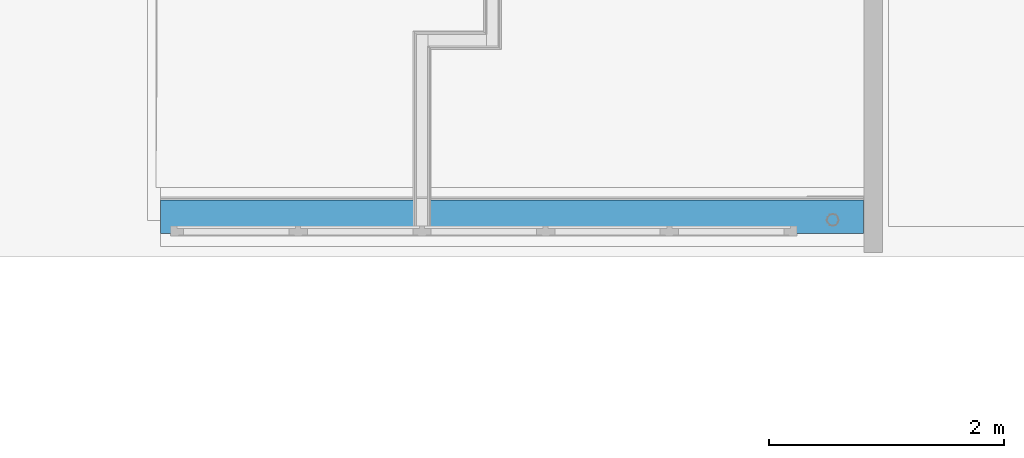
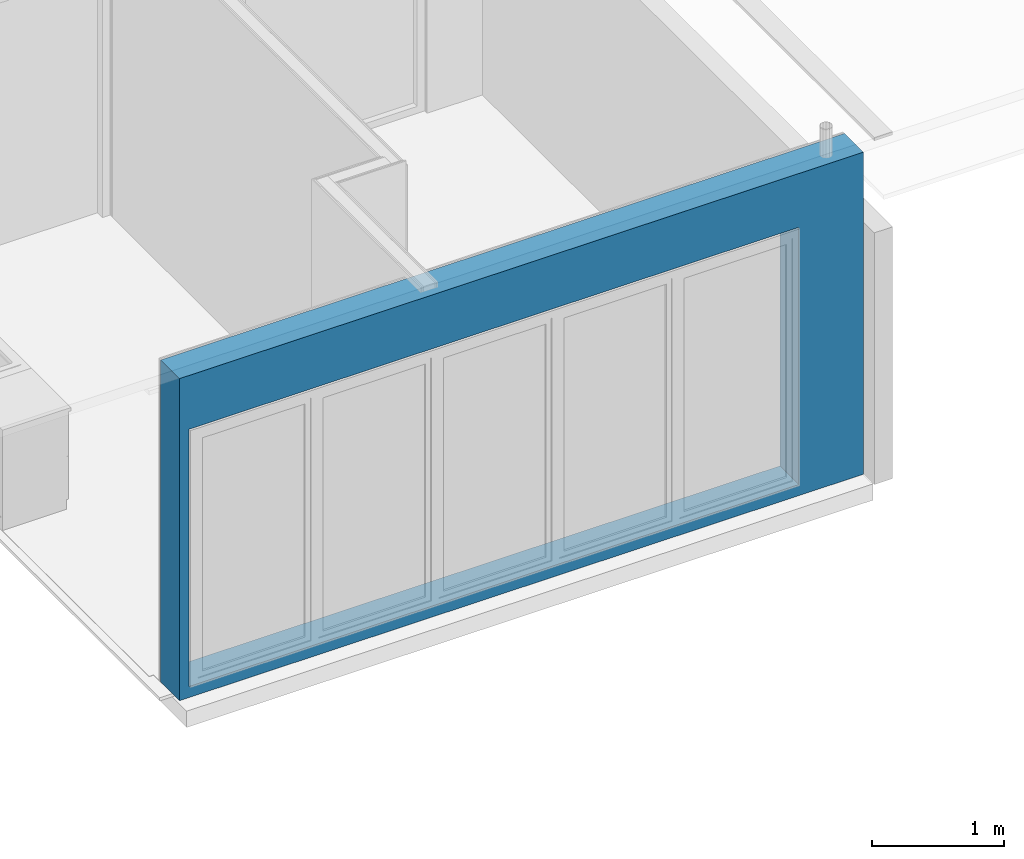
# One storey, part 17 of 25: 1 building element part, 1 opening, 1 element without a shape of its own.
"""IFC2X3 building model written with IfcOpenShell, lengths in millimetres."""

import ifcopenshell
import ifcopenshell.guid

model = None  # the IFC model being written
_history = None  # IfcOwnerHistory: only IFC2X3 demands one
_inside = {}  # id of a spatial element -> (the spatial element, [elements in it])
_under = {}  # id of a project, library or spatial element -> (it, [spatial elements below it])
_declared = {}  # id of a project -> (the project, [libraries it declares])
_typed = {}  # id of a type object -> (the type object, [elements of that type])
_made_of = {}  # id of a material, layer set ... -> (it, [elements and type objects made of it])


def new_model(schema):
    """Start an empty IFC model of exactly this schema.

    Asked for "IFC4X3", IfcOpenShell would pick the latest addendum, in which some entities
    have other attributes; the version numbers below select the first issue.
    IFC2X3 requires an IfcOwnerHistory on every rooted entity: one is made here for all.
    """
    global model, _history
    if schema == "IFC4X3":
        model = ifcopenshell.file(schema_version=(4, 3, 0, 0))
    else:
        model = ifcopenshell.file(schema=schema)
    _inside.clear()
    _under.clear()
    _declared.clear()
    _typed.clear()
    _made_of.clear()
    _history = None
    if model.schema == "IFC2X3":
        org = make("IfcOrganization", Name="unknown")
        user = make(
            "IfcPersonAndOrganization",
            ThePerson=make("IfcPerson", FamilyName="unknown"),
            TheOrganization=org,
        )
        app = make(
            "IfcApplication",
            ApplicationDeveloper=org,
            Version="unknown",
            ApplicationFullName="unknown",
            ApplicationIdentifier="unknown",
        )
        _history = make(
            "IfcOwnerHistory",
            OwningUser=user,
            OwningApplication=app,
            ChangeAction="ADDED",
            CreationDate=0,
        )
    return model


def make(cls, **values):
    """One entity of the class cls with the attributes given. An attribute that is None is left unset."""
    return model.create_entity(
        cls, **{name: value for name, value in values.items() if value is not None}
    )


def entity(cls, *values):
    """Any entity or typed value of the class cls, its attributes in the order of the schema. None: left unset."""
    e = model.create_entity(cls)
    for i, value in enumerate(values):
        if value is not None:
            e[i] = value
    return e


def rooted(cls, **values):
    """An entity with a GlobalId (a new one), such as an element, a storey or a relation."""
    return make(cls, GlobalId=ifcopenshell.guid.new(), OwnerHistory=_history, **values)


def si_unit(unit_type, name, prefix=None):
    """IfcSIUnit, for example si_unit("LENGTHUNIT", "METRE", prefix="MILLI")."""
    return make("IfcSIUnit", UnitType=unit_type, Prefix=prefix, Name=name)


def converted_unit(unit_type, name, factor, base, dimensions=None, offset=None):
    """IfcConversionBasedUnit, such as the inch: factor (a typed value) times the base unit."""
    return make(
        "IfcConversionBasedUnit"
        if offset is None
        else "IfcConversionBasedUnitWithOffset",
        ConversionOffset=offset,
        Dimensions=None
        if dimensions is None
        else entity("IfcDimensionalExponents", *dimensions),
        UnitType=unit_type,
        Name=name,
        ConversionFactor=make(
            "IfcMeasureWithUnit", ValueComponent=factor, UnitComponent=base
        ),
    )


def derived_unit(unit_type, elements):
    """IfcDerivedUnit: a product of units, each with its exponent."""
    return make(
        "IfcDerivedUnit",
        Elements=[
            make("IfcDerivedUnitElement", Unit=unit, Exponent=power)
            for unit, power in elements
        ],
        UnitType=unit_type,
    )


def money_unit(currency):
    """IfcMonetaryUnit."""
    return make("IfcMonetaryUnit", Currency=currency)


def assignment(units):
    """IfcUnitAssignment: the units of a project."""
    return None if units is None else make("IfcUnitAssignment", Units=units)


def point(xyz):
    """IfcCartesianPoint."""
    return None if xyz is None else make("IfcCartesianPoint", Coordinates=xyz)


def direction(xyz):
    """IfcDirection."""
    return None if xyz is None else make("IfcDirection", DirectionRatios=xyz)


def frame(location, z_axis=None, x_axis=None):
    """IfcAxis2Placement3D, a coordinate frame: its origin and axes. An axis left out is left unset."""
    return make(
        "IfcAxis2Placement3D",
        Location=point(location),
        Axis=direction(z_axis),
        RefDirection=direction(x_axis),
    )


def origin_with_axes():
    """The frame at (0, 0, 0) with the z axis (0, 0, 1) and the x axis (1, 0, 0) written out."""
    return frame((0.0, 0.0, 0.0), z_axis=(0.0, 0.0, 1.0), x_axis=(1.0, 0.0, 0.0))


def place(relative_to, where):
    """IfcLocalPlacement: puts the frame where relative to a parent placement (None: the world)."""
    return make(
        "IfcLocalPlacement", PlacementRelTo=relative_to, RelativePlacement=where
    )


def context(
    kind, dimensions, precision=None, world=None, true_north=None, identifier=None
):
    """IfcGeometricRepresentationContext, for example the 3D "Model" context."""
    return make(
        "IfcGeometricRepresentationContext",
        ContextIdentifier=identifier,
        ContextType=kind,
        CoordinateSpaceDimension=dimensions,
        Precision=precision,
        WorldCoordinateSystem=world,
        TrueNorth=true_north,
    )


def subcontext(parent, identifier, kind, view, scale=None):
    """IfcGeometricRepresentationSubContext, for example "Body" below "Model"."""
    return make(
        "IfcGeometricRepresentationSubContext",
        ContextIdentifier=identifier,
        ContextType=kind,
        ParentContext=parent,
        TargetScale=scale,
        TargetView=view,
    )


def project(units=None, contexts=None):
    """IfcProject with its units and contexts."""
    return rooted(
        "IfcProject",
        Name="project",
        RepresentationContexts=contexts,
        UnitsInContext=assignment(units),
    )


def spatial(cls, under=None, at=None, **own):
    """A site, building, storey or space (cls), placed at a placement, below another one or the project."""
    s = rooted(cls, ObjectPlacement=at, **own)
    if under is not None:
        _under.setdefault(under.id(), (under, []))[1].append(s)
    return s


def faces_of(points, faces, orient=None, outer=None):
    """IfcFace entities. A face is a list of loops; a loop is a list of indices into points, from 0.

    orient and outer hold one flag for each loop. By default every Orientation is true, the
    first loop of a face is its IfcFaceOuterBound and the others are IfcFaceBound.
    """
    made = []
    for i, loops in enumerate(faces):
        bounds = []
        for j, loop in enumerate(loops):
            is_outer = j == 0 if outer is None else outer[i][j]
            bounds.append(
                make(
                    "IfcFaceOuterBound" if is_outer else "IfcFaceBound",
                    Bound=make("IfcPolyLoop", Polygon=[points[k] for k in loop]),
                    Orientation=True if orient is None else orient[i][j],
                )
            )
        made.append(make("IfcFace", Bounds=bounds))
    return made


def faceted_brep(points, faces, orient=None, outer=None, voids=None):
    """IfcFacetedBrep: a solid bounded by flat faces; with voids (closed shells), ...WithVoids."""
    shared = [point(p) for p in points]
    hull = make("IfcClosedShell", CfsFaces=faces_of(shared, faces, orient, outer))
    if voids is None:
        return make("IfcFacetedBrep", Outer=hull)
    return make(
        "IfcFacetedBrepWithVoids",
        Outer=hull,
        Voids=[
            make(cls, CfsFaces=faces_of(shared, fs, o, b)) for cls, fs, o, b in voids
        ],
    )


def shape(context_of_items, identifier, shape_type, items):
    """IfcShapeRepresentation: the items that make up one representation, for example the "Body"."""
    return make(
        "IfcShapeRepresentation",
        ContextOfItems=context_of_items,
        RepresentationIdentifier=identifier,
        RepresentationType=shape_type,
        Items=items,
    )


def material(Name=None, Category=None):
    """IfcMaterial."""
    return make("IfcMaterial", Name=Name, Category=Category)


def made_of(thing, what):
    """Note that an element or type object is made of a material, layer set ...; save() writes the relation."""
    if what is not None:
        _made_of.setdefault(what.id(), (what, []))[1].append(thing)
    return thing


def type_object(cls, material=None, **own):
    """A type object (cls), such as IfcWallType, which elements share."""
    return made_of(rooted(cls, **own), material)


def element(
    cls,
    number,
    at=None,
    inside=None,
    cuts=None,
    type_object=None,
    material=None,
    context=None,
    identifier="Body",
    shape_type=None,
    held_by="IfcProductDefinitionShape",
    body=None,
    shapes=None,
    **own,
):
    """One element of the class cls, such as IfcWall. Its Tag is "e" and its number.

    at: its placement. inside: the storey or other place that contains it. cuts: it is an
    opening in that element (IfcRelVoidsElement). A single representation is given by context,
    identifier, shape_type and body (its items); several are given by shapes. held_by: the class
    of the entity that holds the representations. save() writes the other relations.
    """
    e = rooted(cls, Tag="e%d" % number, ObjectPlacement=at, **own)
    if body is not None:
        shapes = [shape(context, identifier, shape_type, body)]
    if shapes is not None:
        e.Representation = make(held_by, Representations=shapes)
    if inside is not None:
        _inside.setdefault(inside.id(), (inside, []))[1].append(e)
    if cuts is not None:
        rooted(
            "IfcRelVoidsElement", RelatingBuildingElement=cuts, RelatedOpeningElement=e
        )
    if type_object is not None:
        _typed.setdefault(type_object.id(), (type_object, []))[1].append(e)
    return made_of(e, material)


def aggregate(whole, parts):
    """IfcRelAggregates: a whole, such as a stair, and the parts it consists of."""
    return rooted("IfcRelAggregates", RelatingObject=whole, RelatedObjects=parts)


def save(model, path):
    """Write the relations noted so far, then the file.

    IfcRelAggregates (storeys below a building ...), IfcRelContainedInSpatialStructure (elements
    in a storey), IfcRelDefinesByType, IfcRelAssociatesMaterial and IfcRelDeclares: one each for
    every whole, place, type object, material and project.
    """
    for whole, parts in _under.values():
        aggregate(whole, parts)
    for where, things in _inside.values():
        rooted(
            "IfcRelContainedInSpatialStructure",
            RelatedElements=things,
            RelatingStructure=where,
        )
    for kind, things in _typed.values():
        rooted("IfcRelDefinesByType", RelatedObjects=things, RelatingType=kind)
    for what, things in _made_of.values():
        rooted("IfcRelAssociatesMaterial", RelatedObjects=things, RelatingMaterial=what)
    for by, libraries in _declared.values():
        rooted("IfcRelDeclares", RelatingContext=by, RelatedDefinitions=libraries)
    model.write(path)


model = new_model("IFC2X3")

# Units and contexts
model_context = context("Model", 3, precision=0.01, world=origin_with_axes(), true_north=direction((0.0, 1.0)))
body_context = subcontext(model_context, "Body", "Model", "MODEL_VIEW")
ifc_project = project(units=[si_unit("LENGTHUNIT", "METRE", prefix="MILLI"), si_unit("AREAUNIT", "SQUARE_METRE"), si_unit("VOLUMEUNIT", "CUBIC_METRE"), converted_unit("PLANEANGLEUNIT", "DEGREE", entity("IfcPlaneAngleMeasure", 0.0174532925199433), si_unit("PLANEANGLEUNIT", "RADIAN"), dimensions=[0, 0, 0, 0, 0, 0, 0]), money_unit("EUR"), converted_unit("TIMEUNIT", "Year", entity("IfcTimeMeasure", 31557600.0), si_unit("TIMEUNIT", "SECOND"), dimensions=[0, 0, 1, 0, 0, 0, 0]), si_unit("MASSUNIT", "GRAM", prefix="KILO"), si_unit("THERMODYNAMICTEMPERATUREUNIT", "DEGREE_CELSIUS"), si_unit("LUMINOUSINTENSITYUNIT", "LUMEN"), si_unit("ENERGYUNIT", "JOULE", prefix="MEGA"), derived_unit("THERMALCONDUCTANCEUNIT", [(si_unit("POWERUNIT", "WATT"), 1), (si_unit("LENGTHUNIT", "METRE"), -1), (si_unit("THERMODYNAMICTEMPERATUREUNIT", "KELVIN"), -1)]), derived_unit("SPECIFICHEATCAPACITYUNIT", [(si_unit("ENERGYUNIT", "JOULE"), 1), (si_unit("MASSUNIT", "GRAM", prefix="KILO"), -1), (si_unit("THERMODYNAMICTEMPERATUREUNIT", "KELVIN"), -1)]), derived_unit("MASSDENSITYUNIT", [(si_unit("MASSUNIT", "GRAM", prefix="KILO"), 1), (si_unit("VOLUMEUNIT", "CUBIC_METRE"), -1)])], contexts=[model_context])

# Site, building, storey
site_placement = place(None, origin_with_axes())
site = spatial("IfcSite", under=ifc_project, at=site_placement, Name="<site naam>", CompositionType="ELEMENT")
building_placement = place(site_placement, origin_with_axes())
building = spatial("IfcBuilding", under=site, at=building_placement, Name="<Naam gebouw>", CompositionType="ELEMENT")
storey_placement = place(building_placement, frame((0.0, 0.0, 9563.0), z_axis=(0.0, 0.0, 1.0), x_axis=(1.0, 0.0, 0.0)))
storey = spatial("IfcBuildingStorey", under=building, at=storey_placement, Name="03 3e tussenverdieping", CompositionType="ELEMENT", Elevation=9563.0)

# Wall, opening, building element part
wall_type = type_object("IfcWallType", Name="HSB_285 zonder gevelbeplating 313", PredefinedType="NOTDEFINED")
wall_placement = place(storey_placement, frame((52175.00000000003, 159.999858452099, 0.0), z_axis=(0.0, 0.0, 1.0), x_axis=(1.0, 0.0, 0.0)))
wall = element("IfcWall", 1, at=wall_placement, inside=storey, type_object=wall_type, Name="21_Binnenwand_HSB_285")
opening_placement = place(wall_placement, frame((2749.937334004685, 0.0, 102.4999999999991), z_axis=(0.0, 0.0, 1.0), x_axis=(1.0, 0.0, 0.0)))
element("IfcOpeningElement", 2, at=opening_placement, cuts=wall, Name="21_BU-B-32_305", context=body_context, shape_type="Brep", body=[
    faceted_brep([(2664.461586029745, 313.5000000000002, 2377.0), (2664.461586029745, 313.5, 0.0), (-2664.461586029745, 313.5, 0.0), (-2664.461586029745, 313.5000000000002, 2377.0), (2664.461586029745, -1.000000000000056, 2377.0), (2664.461586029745, -1.000000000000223, 0.0), (-2664.461586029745, -1.000000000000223, 0.0), (-2664.461586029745, -1.000000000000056, 2377.0)], [[[0, 1, 2, 3]], [[4, 5, 1, 0]], [[5, 6, 2, 1]], [[6, 7, 3, 2]], [[7, 4, 0, 3]], [[6, 5, 4, 7]]]),
])
ifc_material = material(Name="isolatie_houtvezel")
building_element_part_placement = place(wall_placement, origin_with_axes())
building_element_part = element("IfcBuildingElementPart", 3, at=building_element_part_placement, material=ifc_material, Name="isolatie_houtvezel", context=body_context, shape_type="Brep", body=[
    faceted_brep([(2148.644959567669, 285.0000000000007, 3.000000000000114), (4.88057025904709e-05, 284.9999999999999, 3.000000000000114), (0.0, 285.0000000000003, 2977.0), (5980.000000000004, 285.0000000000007, 2977.0), (5980.000000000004, 285.0000000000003, 0.0), (5500.000007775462, 285.0000000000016, 0.0), (5500.000007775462, 285.0000000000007, 3.000000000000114), (2298.64501679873, 285.0000000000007, 3.000000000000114), (2298.64501679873, 284.9999999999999, 0.0), (2148.644959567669, 285.0000000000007, 0.0), (2148.644952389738, 109.0001158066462, 3.000000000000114), (4.88057025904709e-05, 109.0001158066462, 3.000000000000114), (4.88057025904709e-05, 109.0001158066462, 0.0), (0.0, 0.0, 0.0), (0.0, 0.0, 2977.0), (5980.000000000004, 0.0, 2977.0), (5980.000000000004, 0.0, 0.0), (2148.644952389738, 109.0001158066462, 0.0), (2298.64501679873, 109.0001566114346, 0.0), (5500.000007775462, 109.0001566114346, 0.0), (5500.000007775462, 109.0001566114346, 3.000000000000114), (2298.64501679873, 109.0001566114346, 3.000000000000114)], [[[0, 1, 2, 3, 4, 5, 6, 7, 8, 9]], [[1, 0, 10, 11]], [[11, 12, 13, 14, 2, 1]], [[14, 15, 3, 2]], [[16, 4, 3, 15]], [[17, 9, 8, 18, 19, 5, 4, 16, 13, 12]], [[6, 5, 19, 20]], [[7, 6, 20, 21]], [[8, 7, 21, 18]], [[0, 9, 17, 10]], [[17, 12, 11, 10]], [[13, 16, 15, 14]], [[19, 18, 21, 20]]]),
])
aggregate(wall, [building_element_part])

save(model, "model.ifc")
